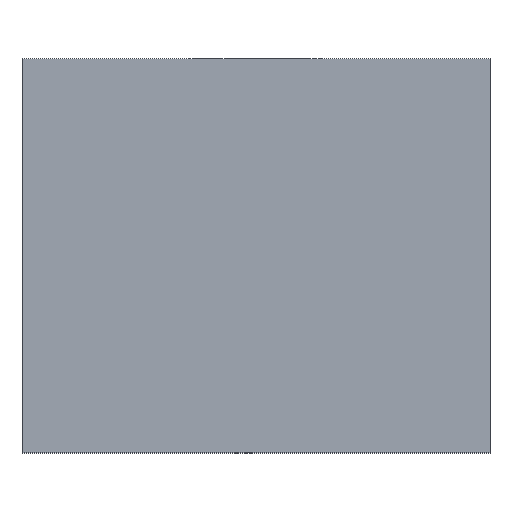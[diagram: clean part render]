
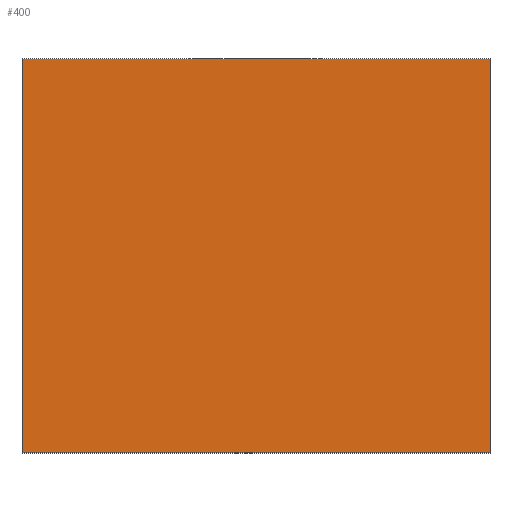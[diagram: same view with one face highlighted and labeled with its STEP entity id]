
A CAD part, top view. The second image highlights one B-rep face of the part: STEP entity #400.
In plain terms, the highlighted planar face has unit normal (0, 0, 1).
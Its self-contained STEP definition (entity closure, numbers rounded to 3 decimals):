
#5 = CARTESIAN_POINT ( 'NONE',  ( 0., 32., 10. ) ) ;
#31 = ORIENTED_EDGE ( 'NONE', *, *, #545, .T. ) ;
#38 = CARTESIAN_POINT ( 'NONE',  ( 38., 0., 10. ) ) ;
#72 = CARTESIAN_POINT ( 'NONE',  ( 0., 0., 10. ) ) ;
#96 = ORIENTED_EDGE ( 'NONE', *, *, #173, .T. ) ;
#109 = CARTESIAN_POINT ( 'NONE',  ( 0., 0., 10. ) ) ;
#173 = EDGE_CURVE ( 'NONE', #195, #798, #268, .T. ) ;
#190 = ORIENTED_EDGE ( 'NONE', *, *, #395, .T. ) ;
#195 = VERTEX_POINT ( 'NONE', #588 ) ;
#235 = DIRECTION ( 'NONE',  ( 0., 1., 0. ) ) ;
#268 = LINE ( 'NONE', #283, #540 ) ;
#283 = CARTESIAN_POINT ( 'NONE',  ( 0., 0., 10. ) ) ;
#313 = LINE ( 'NONE', #318, #909 ) ;
#318 = CARTESIAN_POINT ( 'NONE',  ( 38., 0., 10. ) ) ;
#336 = LINE ( 'NONE', #109, #451 ) ;
#345 = DIRECTION ( 'NONE',  ( 0., -1., 0. ) ) ;
#395 = EDGE_CURVE ( 'NONE', #681, #992, #313, .T. ) ;
#400 = ADVANCED_FACE ( 'NONE', ( #805 ), #963, .F. ) ;
#424 = AXIS2_PLACEMENT_3D ( 'NONE', #1035, #970, #478 ) ;
#448 = VECTOR ( 'NONE', #977, 1000. ) ;
#450 = ORIENTED_EDGE ( 'NONE', *, *, #974, .T. ) ;
#451 = VECTOR ( 'NONE', #812, 1000. ) ;
#478 = DIRECTION ( 'NONE',  ( -1., 0., 0. ) ) ;
#540 = VECTOR ( 'NONE', #345, 1000. ) ;
#545 = EDGE_CURVE ( 'NONE', #992, #195, #737, .T. ) ;
#588 = CARTESIAN_POINT ( 'NONE',  ( 0., 32., 10. ) ) ;
#659 = CARTESIAN_POINT ( 'NONE',  ( 38., 32., 10. ) ) ;
#673 = EDGE_LOOP ( 'NONE', ( #96, #450, #190, #31 ) ) ;
#681 = VERTEX_POINT ( 'NONE', #38 ) ;
#737 = LINE ( 'NONE', #5, #448 ) ;
#798 = VERTEX_POINT ( 'NONE', #72 ) ;
#805 = FACE_OUTER_BOUND ( 'NONE', #673, .T. ) ;
#812 = DIRECTION ( 'NONE',  ( 1., 0., 0. ) ) ;
#909 = VECTOR ( 'NONE', #235, 1000. ) ;
#963 = PLANE ( 'NONE',  #424 ) ;
#970 = DIRECTION ( 'NONE',  ( 0., 0., -1. ) ) ;
#974 = EDGE_CURVE ( 'NONE', #798, #681, #336, .T. ) ;
#977 = DIRECTION ( 'NONE',  ( -1., 0., 0. ) ) ;
#992 = VERTEX_POINT ( 'NONE', #659 ) ;
#1035 = CARTESIAN_POINT ( 'NONE',  ( 0., 0., 10. ) ) ;
